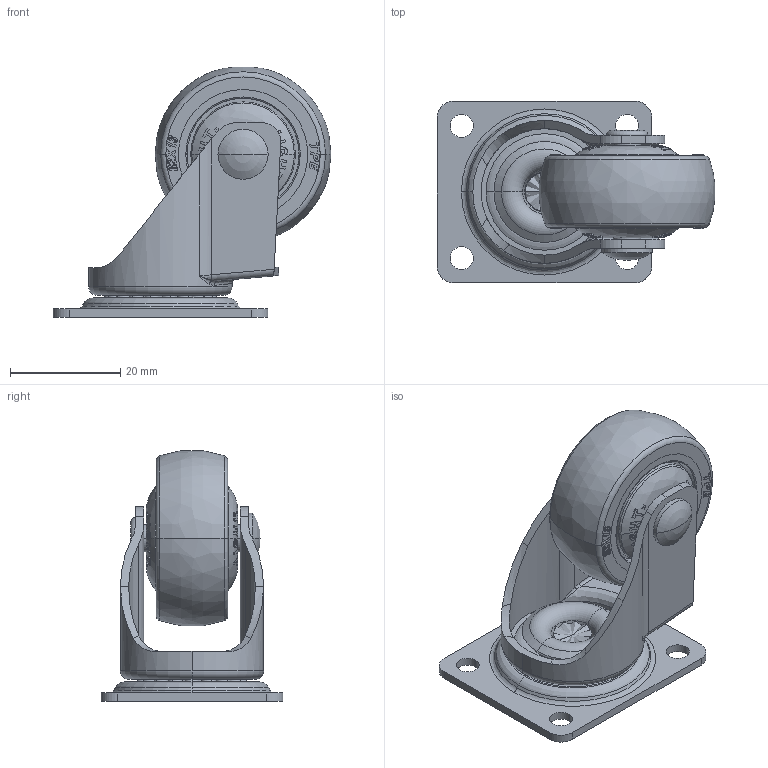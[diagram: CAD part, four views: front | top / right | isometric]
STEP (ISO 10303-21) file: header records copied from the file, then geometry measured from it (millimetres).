
FILE_DESCRIPTION((''),'2;1');
FILE_NAME('810-SH_ASM','2022-08-31T',('Lenovo'),(''),'PRO/ENGINEER BY PARAMETRIC TECHNOLOGY CORPORATION, 2010280','PRO/ENGINEER BY PARAMETRIC TECHNOLOGY CORPORATION, 2010280','');
FILE_SCHEMA(('CONFIG_CONTROL_DESIGN'));
Length unit declared in the file: millimetre
Products named in the file (23): 810-GZS__; 810-SSZJ__; 810-GZX__; 810-XBP__; 810-LZMD__; 08-1-25-TPR-L___5; 08-1-25-TPR-W___6; MANIFOLD_SOLID_BREP_11366; MANIFOLD_SOLID_BREP_11730; MANIFOLD_SOLID_BREP_11768; MANIFOLD_SOLID_BREP_11806; MANIFOLD_SOLID_BREP_11844; MANIFOLD_SOLID_BREP_11882; MANIFOLD_SOLID_BREP_11920; MANIFOLD_SOLID_BREP_11958; MANIFOLD_SOLID_BREP_11996; 606___1_ASM; 08-25-F-00___8; 08-8-25___ASM_5_ASM; 01125YZTPE0105_ASM; 810-PDB; 810-ZXWD_; 810-SH_ASM
Assembly tree (23 placements, depth 5):
  810-SH_ASM
    810-GZS__
    810-SSZJ__
    810-GZX__
    810-XBP__
    810-LZMD__
    01125YZTPE0105_ASM
      08-8-25___ASM_5_ASM
        08-1-25-TPR-L___5
        08-1-25-TPR-W___6
        606___1_ASM
          MANIFOLD_SOLID_BREP_11366
          MANIFOLD_SOLID_BREP_11730
          MANIFOLD_SOLID_BREP_11768
          MANIFOLD_SOLID_BREP_11806
          MANIFOLD_SOLID_BREP_11844
          MANIFOLD_SOLID_BREP_11882
          MANIFOLD_SOLID_BREP_11920
          MANIFOLD_SOLID_BREP_11958
          MANIFOLD_SOLID_BREP_11996
        08-25-F-00___8  x2
    810-PDB
    810-ZXWD_
Bounding box: 50.46 x 33 x 45.48 mm (x, y, z)
Volume: 14806.8 mm3; surface area: 18199.5 mm2
Topology: 51 solids, 51 shells, 937 faces, 2480 edges, 1547 vertices
Faces by surface type: plane 388, extrusion 194, sphere 96, cylinder 89, torus 72, bspline 62, cone 36
Entity records: 26296 total; most frequent: CARTESIAN_POINT 8259, ORIENTED_EDGE 3762, DIRECTION 3280, EDGE_CURVE 1881, VERTEX_POINT 1257, AXIS2_PLACEMENT_3D 1168, VECTOR 944, EDGE_LOOP 856
